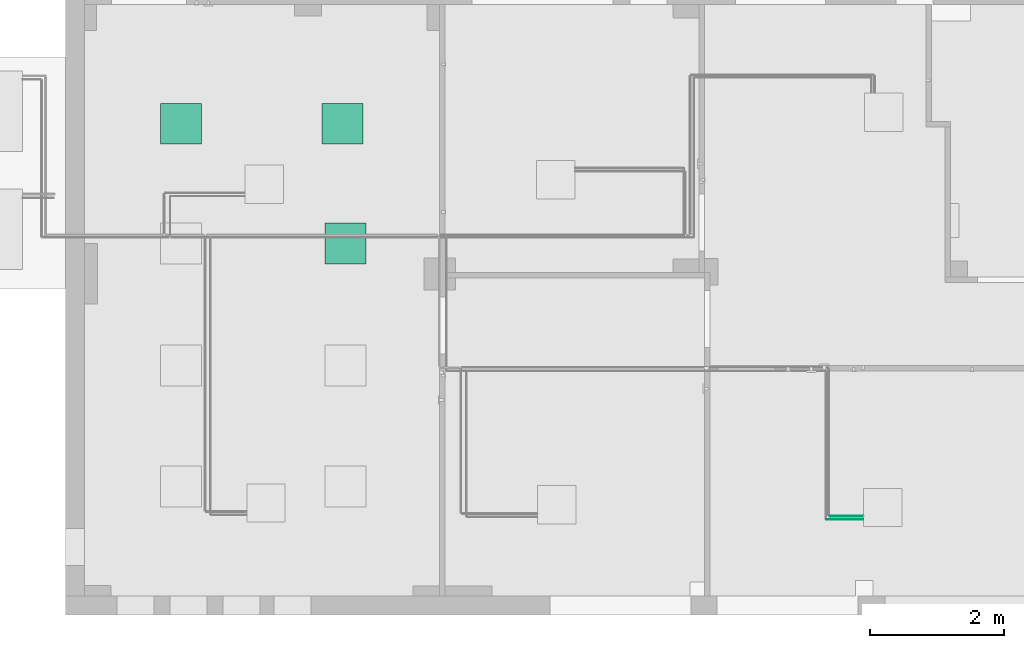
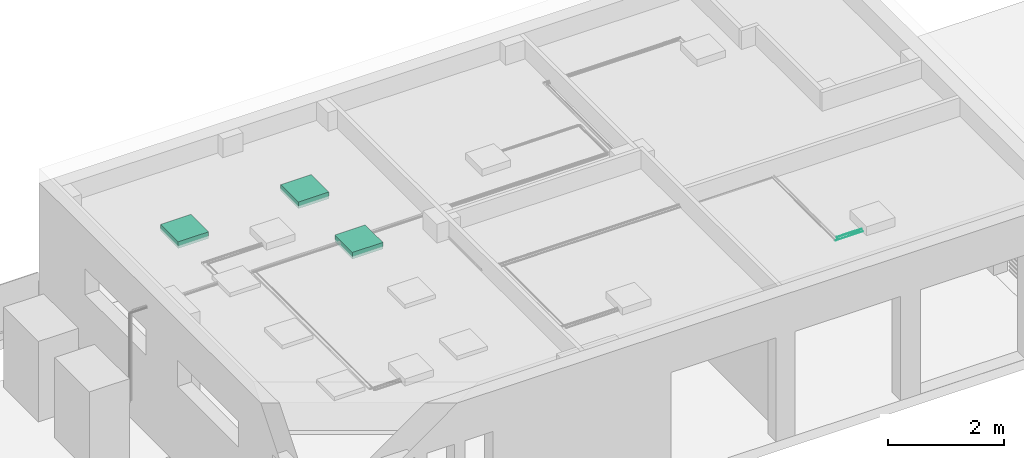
# One storey, part 11 of 22: 3 flow terminals, 2 flow segments.
"""IFC2X3 building model written with IfcOpenShell, lengths in millimetres."""

from ifc_helpers import new_model, entity, si_unit, converted_unit, derived_unit, direction, frame, frame_2d, origin, origin_2d_with_axis, place, context, subcontext, project, spatial, polyline, rectangle, circle, outline, extrude, source, transform, mapped, material, material_list, type_object, type_shapes, element, save


model = new_model("IFC2X3")

# Units and contexts
model_context = context("Model", 3, precision=0.01, world=origin(), true_north=direction((6.123031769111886e-17, 1.0)))
body_context = subcontext(model_context, "Body", "Model", "MODEL_VIEW")
ifc_project = project(units=[si_unit("LENGTHUNIT", "METRE", prefix="MILLI"), si_unit("AREAUNIT", "SQUARE_METRE"), si_unit("VOLUMEUNIT", "CUBIC_METRE"), converted_unit("PLANEANGLEUNIT", "DEGREE", entity("IfcRatioMeasure", 0.017453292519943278), si_unit("PLANEANGLEUNIT", "RADIAN"), dimensions=[0, 0, 0, 0, 0, 0, 0]), si_unit("MASSUNIT", "GRAM", prefix="KILO"), derived_unit("MASSDENSITYUNIT", [(si_unit("MASSUNIT", "GRAM", prefix="KILO"), 1), (si_unit("LENGTHUNIT", "METRE"), -3)]), derived_unit("MOMENTOFINERTIAUNIT", [(si_unit("LENGTHUNIT", "METRE"), 4)]), si_unit("TIMEUNIT", "SECOND"), si_unit("FREQUENCYUNIT", "HERTZ"), si_unit("THERMODYNAMICTEMPERATUREUNIT", "DEGREE_CELSIUS"), derived_unit("THERMALTRANSMITTANCEUNIT", [(si_unit("MASSUNIT", "GRAM", prefix="KILO"), 1), (si_unit("THERMODYNAMICTEMPERATUREUNIT", "KELVIN"), -1), (si_unit("TIMEUNIT", "SECOND"), -3)]), derived_unit("VOLUMETRICFLOWRATEUNIT", [(si_unit("LENGTHUNIT", "METRE"), 3), (si_unit("TIMEUNIT", "SECOND"), -1)]), derived_unit("MASSFLOWRATEUNIT", [(si_unit("MASSUNIT", "GRAM", prefix="KILO"), 1), (si_unit("TIMEUNIT", "SECOND"), -1)]), derived_unit("ROTATIONALFREQUENCYUNIT", [(si_unit("TIMEUNIT", "SECOND"), -1)]), si_unit("ELECTRICCURRENTUNIT", "AMPERE"), si_unit("ELECTRICVOLTAGEUNIT", "VOLT"), si_unit("POWERUNIT", "WATT"), si_unit("FORCEUNIT", "NEWTON", prefix="KILO"), si_unit("ILLUMINANCEUNIT", "LUX"), si_unit("LUMINOUSFLUXUNIT", "LUMEN"), si_unit("LUMINOUSINTENSITYUNIT", "CANDELA"), derived_unit("USERDEFINED", [(si_unit("MASSUNIT", "GRAM", prefix="KILO"), -1), (si_unit("LENGTHUNIT", "METRE"), -2), (si_unit("TIMEUNIT", "SECOND"), 3), (si_unit("LUMINOUSFLUXUNIT", "LUMEN"), 1)]), derived_unit("SOUNDPOWERUNIT", [(si_unit("MASSUNIT", "GRAM", prefix="KILO"), 1), (si_unit("LENGTHUNIT", "METRE"), 2), (si_unit("TIMEUNIT", "SECOND"), -3)]), derived_unit("SOUNDPRESSUREUNIT", [(si_unit("MASSUNIT", "GRAM", prefix="KILO"), 1), (si_unit("LENGTHUNIT", "METRE"), -1), (si_unit("TIMEUNIT", "SECOND"), -2)]), derived_unit("LINEARVELOCITYUNIT", [(si_unit("LENGTHUNIT", "METRE"), 1), (si_unit("TIMEUNIT", "SECOND"), -1)]), si_unit("PRESSUREUNIT", "PASCAL"), derived_unit("USERDEFINED", [(si_unit("LENGTHUNIT", "METRE"), -2), (si_unit("MASSUNIT", "GRAM", prefix="KILO"), 1), (si_unit("TIMEUNIT", "SECOND"), -2)]), derived_unit("LINEARFORCEUNIT", [(si_unit("MASSUNIT", "GRAM", prefix="KILO"), 1), (si_unit("LENGTHUNIT", "METRE"), 1), (si_unit("TIMEUNIT", "SECOND"), -2), (si_unit("LENGTHUNIT", "METRE"), -1)]), derived_unit("PLANARFORCEUNIT", [(si_unit("MASSUNIT", "GRAM", prefix="KILO"), 1), (si_unit("LENGTHUNIT", "METRE"), 1), (si_unit("TIMEUNIT", "SECOND"), -2), (si_unit("LENGTHUNIT", "METRE"), -2)])], contexts=[model_context])

# Site, building, storey
site_placement = place(None, origin())
site = spatial("IfcSite", under=ifc_project, at=site_placement, Name="Default", CompositionType="ELEMENT")
building_placement = place(site_placement, origin())
building = spatial("IfcBuilding", under=site, at=building_placement, CompositionType="ELEMENT")
storey_placement = place(building_placement, frame((0.0, 0.0, 3300.0)))
storey = spatial("IfcBuildingStorey", under=building, at=storey_placement, Name="Level 2", CompositionType="ELEMENT", Elevation=3299.99999999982)

# Flow segments
ifc_material_1 = material(Name="<Unnamed>")
pipe_segment_type_1 = type_object("IfcPipeSegmentType", Name="Pipe Types:Standard:Standard : Pipe Types:Standard", PredefinedType="NOTDEFINED", material=ifc_material_1)
shared_shape_1 = source(origin(), body_context, "Body", "SweptSolid", [
    extrude(circle(Radius=6.35, at=origin_2d_with_axis()), frame((1945.67508032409, -2607.1411198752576, 6010.0), z_axis=(1.0, 0.0, 0.0), x_axis=(0.0, 1.0, 0.0)), (0.0, 0.0, 1.0), 501.9010868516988),
])
type_shapes(pipe_segment_type_1, [shared_shape_1])
flow_segment_1_placement = place(storey_placement, frame((0.0, 0.0, -3300.0)))
element("IfcFlowSegment", 1, at=flow_segment_1_placement, inside=storey, type_object=pipe_segment_type_1, material=ifc_material_1, Name="Pipe Types:Standard:Standard : Pipe Types:Standard:Standard:Standard : Pipe Types:Standard : Pipe Types:Standard:Standard : Pipe Types:Standard", ObjectType="Pipe Types:Standard:Standard : Pipe Types:Standard:Standard:Standard : Pipe Types:Standard : Pipe Types:Standard:Standard : Pipe Types:Standard", context=body_context, shape_type="MappedRepresentation", body=[
    mapped(shared_shape_1, transform((0.0, 0.0, 0.0), scale=1.0)),
])
pipe_segment_type_2 = type_object("IfcPipeSegmentType", Name="Pipe Types:Standard:Standard : Pipe Types:Standard", PredefinedType="NOTDEFINED", material=ifc_material_1)
shared_shape_2 = source(origin(), body_context, "Body", "SweptSolid", [
    extrude(circle(Radius=3.175, at=origin_2d_with_axis()), frame((1898.67616717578, -2655.266119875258, 5990.0), z_axis=(1.0, 0.0, 0.0), x_axis=(0.0, 1.0, 0.0)), (0.0, 0.0, 1.0), 550.4750000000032),
])
type_shapes(pipe_segment_type_2, [shared_shape_2])
flow_segment_2_placement = place(storey_placement, frame((0.0, 0.0, -3300.0)))
element("IfcFlowSegment", 2, at=flow_segment_2_placement, inside=storey, type_object=pipe_segment_type_2, material=ifc_material_1, Name="Pipe Types:Standard:Standard : Pipe Types:Standard:Standard:Standard : Pipe Types:Standard : Pipe Types:Standard:Standard : Pipe Types:Standard", ObjectType="Pipe Types:Standard:Standard : Pipe Types:Standard:Standard:Standard : Pipe Types:Standard : Pipe Types:Standard:Standard : Pipe Types:Standard", context=body_context, shape_type="MappedRepresentation", body=[
    mapped(shared_shape_2, transform((0.0, 0.0, 0.0), scale=1.0)),
])

# Flow terminals
ifc_material_2 = material(Name="Glass, White, High Luminance")
ifc_material_3 = material(Name="Steel, Chrome Plated 155972")
ifc_material_list_1 = material_list([ifc_material_2, ifc_material_3, ifc_material_2, ifc_material_3])
ifc_material_list_2 = material_list([ifc_material_2, ifc_material_3, ifc_material_2, ifc_material_3])
light_fixture_type_1 = type_object("IfcLightFixtureType", Name="M_Troffer Light - Parabolic Square control rooms:0600x0600mm(2 Lamp) - 120V:0600x0600mm(2 Lamp) - 120V : M_Troffer Light - Parabolic Square control rooms:0600x0600mm(2 Lamp) - 120V", PredefinedType="NOTDEFINED", material=ifc_material_list_2)
shared_shape_3 = source(origin(), body_context, "Body", "SweptSolid", [
    extrude(rectangle(XDim=558.799999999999, YDim=558.7999999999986, at=frame_2d((2.5579538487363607e-13, 0.0), x_axis=(1.0, 0.0))), frame((-7707.35577874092, 3235.3529545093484, 5976.19999999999), z_axis=(0.0, 0.0, 1.0), x_axis=(0.0, 1.0, 0.0)), (0.0, 0.0, 1.0), 6.350000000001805),
    extrude(outline(polyline([(-304.8, -304.8), (304.8000000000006, -304.8), (304.8000000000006, 304.8), (-304.8, 304.8), (-304.8, -304.8)]), holes=[polyline([(279.4000000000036, 279.3999999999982), (279.4000000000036, -279.40000000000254), (-279.39999999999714, -279.40000000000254), (-279.39999999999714, 279.3999999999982), (279.4000000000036, 279.3999999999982)])]), frame((-7707.35577874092, 3235.3529545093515, 5900.0), z_axis=(0.0, 0.0, 1.0), x_axis=(0.0, -1.0, 0.0)), (0.0, 0.0, 1.0), 114.2999999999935),
    extrude(rectangle(XDim=558.8000000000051, YDim=558.7999999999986, at=origin_2d_with_axis()), frame((-7707.35577874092, 3235.35295450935, 5890.0), z_axis=(0.0, 0.0, 1.0), x_axis=(0.0, 1.0, 0.0)), (0.0, 0.0, 1.0), 60.00000000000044),
    extrude(rectangle(XDim=609.6000000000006, YDim=609.6000000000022, at=frame_2d((-2.8421709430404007e-13, 0.0), x_axis=(1.0, 0.0))), frame((-7707.35577874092, 3235.3529545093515, 6014.299999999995), z_axis=(0.0, 0.0, 1.0), x_axis=(0.0, 1.0, 0.0)), (0.0, 0.0, 1.0), 25.399999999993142),
])
type_shapes(light_fixture_type_1, [shared_shape_3])
flow_terminal_1_placement = place(storey_placement, frame((0.0, 0.0, -3300.0)))
element("IfcFlowTerminal", 3, at=flow_terminal_1_placement, inside=storey, type_object=light_fixture_type_1, material=ifc_material_list_1, context=body_context, shape_type="MappedRepresentation", body=[
    mapped(shared_shape_3, transform((0.0, 0.0, 0.0), scale=1.0)),
])
ifc_material_list_3 = material_list([ifc_material_2, ifc_material_3, ifc_material_2, ifc_material_3])
ifc_material_list_4 = material_list([ifc_material_2, ifc_material_3, ifc_material_2, ifc_material_3])
light_fixture_type_2 = type_object("IfcLightFixtureType", Name="M_Troffer Light - Parabolic Square control rooms:0600x0600mm(2 Lamp) - 120V:0600x0600mm(2 Lamp) - 120V : M_Troffer Light - Parabolic Square control rooms:0600x0600mm(2 Lamp) - 120V", PredefinedType="NOTDEFINED", material=ifc_material_list_4)
shared_shape_4 = source(origin(), body_context, "Body", "SweptSolid", [
    extrude(rectangle(XDim=558.8000000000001, YDim=558.7999999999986, at=frame_2d((5.684341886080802e-14, 0.0), x_axis=(1.0, 0.0))), frame((-5257.355778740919, 1451.1913189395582, 5976.19999999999), z_axis=(0.0, 0.0, 1.0), x_axis=(0.0, 1.0, 0.0)), (0.0, 0.0, 1.0), 6.350000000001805),
    extrude(outline(polyline([(-304.8, -304.8), (304.8000000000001, -304.8), (304.8000000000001, 304.8), (-304.8, 304.8), (-304.8, -304.8)]), holes=[polyline([(279.40000000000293, 279.3999999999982), (279.40000000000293, -279.40000000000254), (-279.39999999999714, -279.40000000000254), (-279.39999999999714, 279.3999999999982), (279.40000000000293, 279.3999999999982)])]), frame((-5257.35577874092, 1451.1913189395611, 5900.0), z_axis=(0.0, 0.0, 1.0), x_axis=(0.0, -1.0, 0.0)), (0.0, 0.0, 1.0), 114.2999999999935),
    extrude(rectangle(XDim=558.8000000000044, YDim=558.7999999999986, at=frame_2d((5.684341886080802e-14, 0.0), x_axis=(1.0, 0.0))), frame((-5257.355778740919, 1451.1913189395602, 5890.0), z_axis=(0.0, 0.0, 1.0), x_axis=(0.0, 1.0, 0.0)), (0.0, 0.0, 1.0), 60.00000000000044),
    extrude(rectangle(XDim=609.5999999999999, YDim=609.6000000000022, at=frame_2d((5.684341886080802e-14, 0.0), x_axis=(1.0, 0.0))), frame((-5257.35577874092, 1451.1913189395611, 6014.299999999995), z_axis=(0.0, 0.0, 1.0), x_axis=(0.0, 1.0, 0.0)), (0.0, 0.0, 1.0), 25.399999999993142),
])
type_shapes(light_fixture_type_2, [shared_shape_4])
flow_terminal_2_placement = place(storey_placement, frame((0.0, 0.0, -3300.0)))
element("IfcFlowTerminal", 4, at=flow_terminal_2_placement, inside=storey, type_object=light_fixture_type_2, material=ifc_material_list_3, context=body_context, shape_type="MappedRepresentation", body=[
    mapped(shared_shape_4, transform((0.0, 0.0, 0.0), scale=1.0)),
])
ifc_material_list_5 = material_list([ifc_material_2, ifc_material_3, ifc_material_2, ifc_material_3])
ifc_material_list_6 = material_list([ifc_material_2, ifc_material_3, ifc_material_2, ifc_material_3])
light_fixture_type_3 = type_object("IfcLightFixtureType", Name="M_Troffer Light - Parabolic Square control rooms:0600x0600mm(2 Lamp) - 120V:0600x0600mm(2 Lamp) - 120V : M_Troffer Light - Parabolic Square control rooms:0600x0600mm(2 Lamp) - 120V", PredefinedType="NOTDEFINED", material=ifc_material_list_6)
shared_shape_5 = source(origin(), body_context, "Body", "SweptSolid", [
    extrude(rectangle(XDim=558.799999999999, YDim=558.7999999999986, at=frame_2d((2.5579538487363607e-13, 0.0), x_axis=(1.0, 0.0))), frame((-5307.35577874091, 3235.3529545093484, 5976.19999999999), z_axis=(0.0, 0.0, 1.0), x_axis=(0.0, 1.0, 0.0)), (0.0, 0.0, 1.0), 6.350000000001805),
    extrude(outline(polyline([(-304.8, -304.8), (304.8000000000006, -304.8), (304.8000000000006, 304.8), (-304.8, 304.8), (-304.8, -304.8)]), holes=[polyline([(279.4000000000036, 279.3999999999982), (279.4000000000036, -279.40000000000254), (-279.39999999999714, -279.40000000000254), (-279.39999999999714, 279.3999999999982), (279.4000000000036, 279.3999999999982)])]), frame((-5307.35577874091, 3235.3529545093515, 5900.0), z_axis=(0.0, 0.0, 1.0), x_axis=(0.0, -1.0, 0.0)), (0.0, 0.0, 1.0), 114.2999999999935),
    extrude(rectangle(XDim=558.8000000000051, YDim=558.7999999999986, at=origin_2d_with_axis()), frame((-5307.35577874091, 3235.35295450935, 5890.0), z_axis=(0.0, 0.0, 1.0), x_axis=(0.0, 1.0, 0.0)), (0.0, 0.0, 1.0), 60.00000000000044),
    extrude(rectangle(XDim=609.6000000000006, YDim=609.6000000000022, at=frame_2d((-2.8421709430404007e-13, 0.0), x_axis=(1.0, 0.0))), frame((-5307.35577874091, 3235.3529545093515, 6014.299999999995), z_axis=(0.0, 0.0, 1.0), x_axis=(0.0, 1.0, 0.0)), (0.0, 0.0, 1.0), 25.399999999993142),
])
type_shapes(light_fixture_type_3, [shared_shape_5])
flow_terminal_3_placement = place(storey_placement, frame((0.0, 0.0, -3300.0)))
element("IfcFlowTerminal", 5, at=flow_terminal_3_placement, inside=storey, type_object=light_fixture_type_3, material=ifc_material_list_5, context=body_context, shape_type="MappedRepresentation", body=[
    mapped(shared_shape_5, transform((0.0, 0.0, 0.0), scale=1.0)),
])

save(model, "model.ifc")
